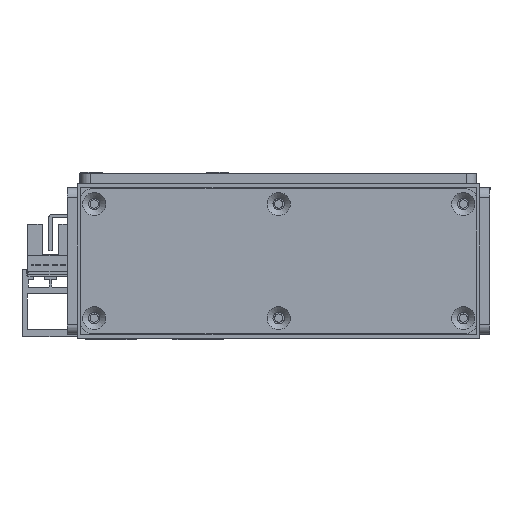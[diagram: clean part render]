
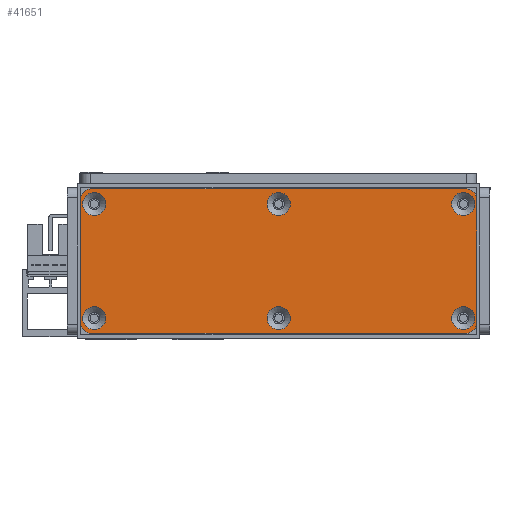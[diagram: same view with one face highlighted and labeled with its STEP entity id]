
A CAD part, front view. The second image highlights one B-rep face of the part: STEP entity #41651.
In plain terms, the highlighted planar face has unit normal (0, -1, 0) as drawn and (0, 0, 1) by its records, which use the part's own axes.
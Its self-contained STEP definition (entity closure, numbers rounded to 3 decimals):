
#814=FACE_BOUND('',#7108,.T.);
#815=FACE_BOUND('',#7109,.T.);
#816=FACE_BOUND('',#7110,.T.);
#817=FACE_BOUND('',#7111,.T.);
#818=FACE_BOUND('',#7112,.T.);
#819=FACE_BOUND('',#7113,.T.);
#1347=PLANE('',#44953);
#4675=FACE_OUTER_BOUND('',#7107,.T.);
#7107=EDGE_LOOP('',(#33202,#33203,#33204,#33205,#33206,#33207,#33208,#33209));
#7108=EDGE_LOOP('',(#33210));
#7109=EDGE_LOOP('',(#33211));
#7110=EDGE_LOOP('',(#33212));
#7111=EDGE_LOOP('',(#33213));
#7112=EDGE_LOOP('',(#33214));
#7113=EDGE_LOOP('',(#33215));
#9916=LINE('',#63847,#14566);
#9920=LINE('',#63859,#14570);
#9924=LINE('',#63871,#14574);
#9928=LINE('',#63881,#14578);
#14566=VECTOR('',#51249,10.);
#14570=VECTOR('',#51261,10.);
#14574=VECTOR('',#51273,10.);
#14578=VECTOR('',#51285,10.);
#18547=CIRCLE('',#44907,3.45);
#18550=CIRCLE('',#44912,3.45);
#18553=CIRCLE('',#44917,3.45);
#18556=CIRCLE('',#44922,3.45);
#18559=CIRCLE('',#44927,3.45);
#18562=CIRCLE('',#44932,3.45);
#18566=CIRCLE('',#44938,3.);
#18568=CIRCLE('',#44942,3.);
#18570=CIRCLE('',#44946,3.);
#18572=CIRCLE('',#44950,3.);
#20327=VERTEX_POINT('',#63775);
#20330=VERTEX_POINT('',#63785);
#20333=VERTEX_POINT('',#63795);
#20336=VERTEX_POINT('',#63805);
#20339=VERTEX_POINT('',#63815);
#20342=VERTEX_POINT('',#63825);
#20347=VERTEX_POINT('',#63838);
#20348=VERTEX_POINT('',#63840);
#20350=VERTEX_POINT('',#63846);
#20352=VERTEX_POINT('',#63852);
#20354=VERTEX_POINT('',#63858);
#20356=VERTEX_POINT('',#63864);
#20358=VERTEX_POINT('',#63870);
#20360=VERTEX_POINT('',#63876);
#24982=EDGE_CURVE('',#20327,#20327,#18547,.T.);
#24987=EDGE_CURVE('',#20330,#20330,#18550,.T.);
#24992=EDGE_CURVE('',#20333,#20333,#18553,.T.);
#24997=EDGE_CURVE('',#20336,#20336,#18556,.T.);
#25002=EDGE_CURVE('',#20339,#20339,#18559,.T.);
#25007=EDGE_CURVE('',#20342,#20342,#18562,.T.);
#25014=EDGE_CURVE('',#20348,#20347,#18566,.T.);
#25017=EDGE_CURVE('',#20350,#20348,#9916,.T.);
#25020=EDGE_CURVE('',#20352,#20350,#18568,.T.);
#25023=EDGE_CURVE('',#20354,#20352,#9920,.T.);
#25026=EDGE_CURVE('',#20356,#20354,#18570,.T.);
#25029=EDGE_CURVE('',#20358,#20356,#9924,.T.);
#25032=EDGE_CURVE('',#20360,#20358,#18572,.T.);
#25035=EDGE_CURVE('',#20347,#20360,#9928,.T.);
#33202=ORIENTED_EDGE('',*,*,#25035,.T.);
#33203=ORIENTED_EDGE('',*,*,#25032,.T.);
#33204=ORIENTED_EDGE('',*,*,#25029,.T.);
#33205=ORIENTED_EDGE('',*,*,#25026,.T.);
#33206=ORIENTED_EDGE('',*,*,#25023,.T.);
#33207=ORIENTED_EDGE('',*,*,#25020,.T.);
#33208=ORIENTED_EDGE('',*,*,#25017,.T.);
#33209=ORIENTED_EDGE('',*,*,#25014,.T.);
#33210=ORIENTED_EDGE('',*,*,#24982,.T.);
#33211=ORIENTED_EDGE('',*,*,#24987,.T.);
#33212=ORIENTED_EDGE('',*,*,#24992,.T.);
#33213=ORIENTED_EDGE('',*,*,#24997,.T.);
#33214=ORIENTED_EDGE('',*,*,#25002,.T.);
#33215=ORIENTED_EDGE('',*,*,#25007,.T.);
#41651=ADVANCED_FACE('',(#4675,#814,#815,#816,#817,#818,#819),#1347,.T.);
#44907=AXIS2_PLACEMENT_3D('',#63776,#51168,#51169);
#44912=AXIS2_PLACEMENT_3D('',#63786,#51180,#51181);
#44917=AXIS2_PLACEMENT_3D('',#63796,#51192,#51193);
#44922=AXIS2_PLACEMENT_3D('',#63806,#51204,#51205);
#44927=AXIS2_PLACEMENT_3D('',#63816,#51216,#51217);
#44932=AXIS2_PLACEMENT_3D('',#63826,#51228,#51229);
#44938=AXIS2_PLACEMENT_3D('',#63841,#51243,#51244);
#44942=AXIS2_PLACEMENT_3D('',#63853,#51255,#51256);
#44946=AXIS2_PLACEMENT_3D('',#63865,#51267,#51268);
#44950=AXIS2_PLACEMENT_3D('',#63877,#51279,#51280);
#44953=AXIS2_PLACEMENT_3D('',#63883,#51288,#51289);
#51168=DIRECTION('center_axis',(0.,0.,-1.));
#51169=DIRECTION('ref_axis',(1.,0.,0.));
#51180=DIRECTION('center_axis',(0.,0.,-1.));
#51181=DIRECTION('ref_axis',(1.,0.,0.));
#51192=DIRECTION('center_axis',(0.,0.,-1.));
#51193=DIRECTION('ref_axis',(1.,0.,0.));
#51204=DIRECTION('center_axis',(0.,0.,-1.));
#51205=DIRECTION('ref_axis',(1.,0.,0.));
#51216=DIRECTION('center_axis',(0.,0.,-1.));
#51217=DIRECTION('ref_axis',(1.,0.,0.));
#51228=DIRECTION('center_axis',(0.,0.,-1.));
#51229=DIRECTION('ref_axis',(1.,0.,0.));
#51243=DIRECTION('center_axis',(0.,0.,1.));
#51244=DIRECTION('ref_axis',(-1.,0.,0.));
#51249=DIRECTION('',(0.,1.,0.));
#51255=DIRECTION('center_axis',(0.,0.,1.));
#51256=DIRECTION('ref_axis',(0.,1.,0.));
#51261=DIRECTION('',(1.,0.,0.));
#51267=DIRECTION('center_axis',(0.,0.,1.));
#51268=DIRECTION('ref_axis',(1.,0.,0.));
#51273=DIRECTION('',(0.,-1.,0.));
#51279=DIRECTION('center_axis',(0.,0.,1.));
#51280=DIRECTION('ref_axis',(0.,-1.,0.));
#51285=DIRECTION('',(-1.,0.,0.));
#51288=DIRECTION('center_axis',(0.,0.,1.));
#51289=DIRECTION('ref_axis',(1.,0.,0.));
#63775=CARTESIAN_POINT('',(110.55,4.5,3.));
#63776=CARTESIAN_POINT('Origin',(114.,4.5,3.));
#63785=CARTESIAN_POINT('',(55.55,38.5,3.));
#63786=CARTESIAN_POINT('Origin',(59.,38.5,3.));
#63795=CARTESIAN_POINT('',(55.55,4.5,3.));
#63796=CARTESIAN_POINT('Origin',(59.,4.5,3.));
#63805=CARTESIAN_POINT('',(0.55,38.5,3.));
#63806=CARTESIAN_POINT('Origin',(4.,38.5,3.));
#63815=CARTESIAN_POINT('',(110.55,38.5,3.));
#63816=CARTESIAN_POINT('Origin',(114.,38.5,3.));
#63825=CARTESIAN_POINT('',(0.55,4.5,3.));
#63826=CARTESIAN_POINT('Origin',(4.,4.5,3.));
#63838=CARTESIAN_POINT('',(115.,43.,3.));
#63840=CARTESIAN_POINT('',(118.,40.,3.));
#63841=CARTESIAN_POINT('Origin',(115.,40.,3.));
#63846=CARTESIAN_POINT('',(118.,3.,3.));
#63847=CARTESIAN_POINT('',(118.,40.,3.));
#63852=CARTESIAN_POINT('',(115.,0.,3.));
#63853=CARTESIAN_POINT('Origin',(115.,3.,3.));
#63858=CARTESIAN_POINT('',(3.,0.,3.));
#63859=CARTESIAN_POINT('',(115.,0.,3.));
#63864=CARTESIAN_POINT('',(0.,3.,3.));
#63865=CARTESIAN_POINT('Origin',(3.,3.,3.));
#63870=CARTESIAN_POINT('',(0.,40.,3.));
#63871=CARTESIAN_POINT('',(0.,3.,3.));
#63876=CARTESIAN_POINT('',(3.,43.,3.));
#63877=CARTESIAN_POINT('Origin',(3.,40.,3.));
#63881=CARTESIAN_POINT('',(3.,43.,3.));
#63883=CARTESIAN_POINT('Origin',(59.,21.5,3.));
